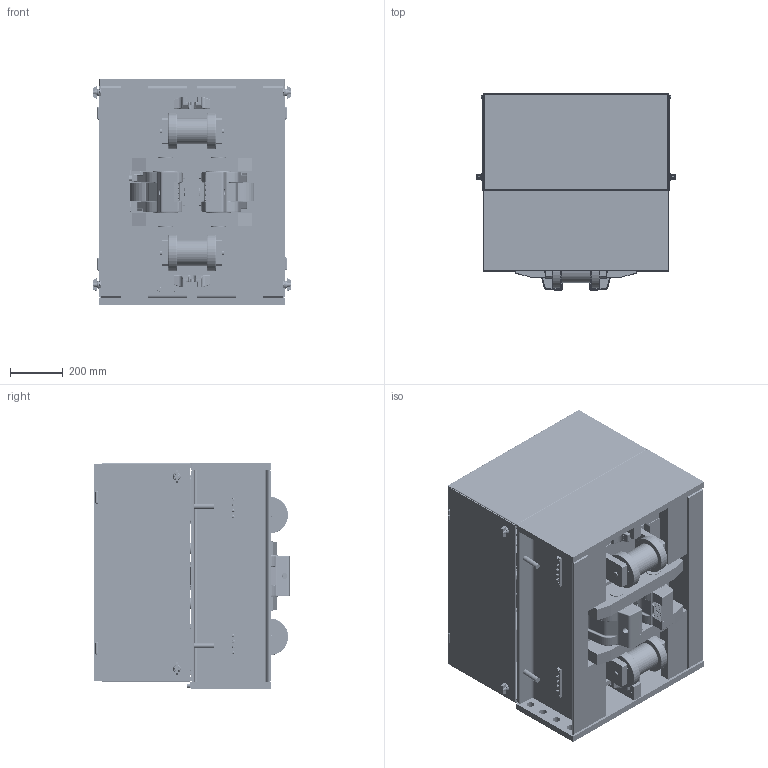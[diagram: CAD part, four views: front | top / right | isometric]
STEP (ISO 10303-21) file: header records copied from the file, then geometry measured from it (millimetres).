
FILE_DESCRIPTION(/* description */ (''),/* implementation_level */ '2;1');
FILE_NAME(/* name */ 'C:\Vault_Workspace\HILLMAR\HILLMAR PRODUCTION\02 STORM BRAKES\0100-2\01002082 CXHV-LH-150-250-LE\SM3D-CXHV-LH-150-250\41150.stp',/* time_stamp */ '2016-10-24T10:54:36+02:00',/* author */ ('vlakrc01'),/* organization */ (''),/* preprocessor_version */ 'ST-DEVELOPER v16.1',/* originating_system */ 'Autodesk Inventor 2016',/* authorisation */ '');
FILE_SCHEMA (('AUTOMOTIVE_DESIGN { 1 0 10303 214 3 1 1 }'));
Products named in the file (1): 41150
Bounding box: 754.58 x 749.53 x 860 mm (x, y, z)
Volume: 83199216 mm3; surface area: 11203766.2 mm2
Topology: 12 solids, 16 shells, 6580 faces, 17395 edges, 10891 vertices
Faces by surface type: plane 3325, cylinder 1599, bspline 891, cone 338, torus 233, sphere 194
Full cylindrical faces by diameter (mm): 2.388 x1, 3 x3, 4.039 x1, 5.5 x4, 5.6 x2, 6.6 x2, 9.246 x4, 9.8 x4, 10 x8, 10.109 x2, 11.113 x4, 12 x8, 15 x1, 15.6 x2, 16 x2, 16.6 x4, 17.26 x2, 18 x16, 20 x8, 21.032 x4, 22.4 x2, 25 x4, 29 x8, 30 x4, 42.5 x4, 45 x12, 50.8 x1, 55.562 x4, 63.5 x1, 90 x4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
Entity records: 232327 total; most frequent: CARTESIAN_POINT 70566, ORIENTED_EDGE 33660, DIRECTION 30642, EDGE_CURVE 16832, VERTEX_POINT 10725, AXIS2_PLACEMENT_3D 10468, LINE 9706, VECTOR 9706
